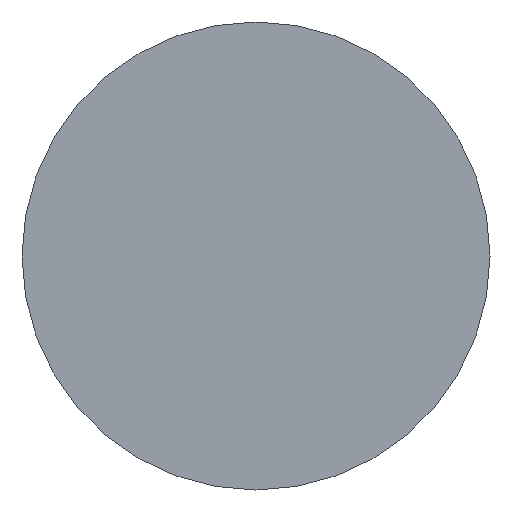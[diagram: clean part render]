
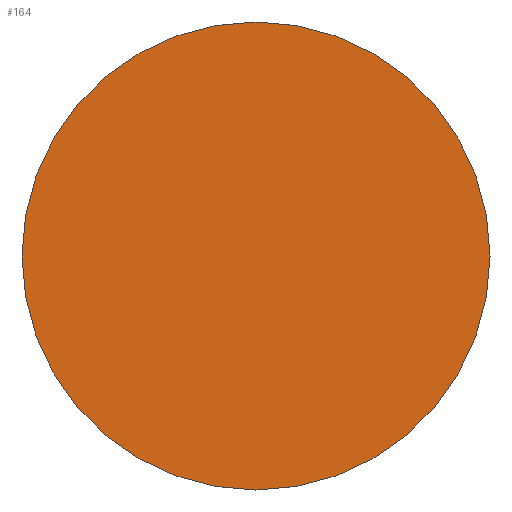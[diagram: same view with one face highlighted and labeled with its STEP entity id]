
A CAD part, left-side view. The second image highlights one B-rep face of the part: STEP entity #164.
In plain terms, the highlighted planar face has unit normal (-1, 0, 0).
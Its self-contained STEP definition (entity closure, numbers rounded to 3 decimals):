
#9 = ORIENTED_EDGE ( 'NONE', *, *, #260, .T. ) ;
#12 = AXIS2_PLACEMENT_3D ( 'NONE', #229, #142, #182 ) ;
#25 = DIRECTION ( 'NONE',  ( -1., 0., 0. ) ) ;
#27 = EDGE_CURVE ( 'NONE', #155, #203, #177, .T. ) ;
#31 = CARTESIAN_POINT ( 'NONE',  ( 0., 0., 0. ) ) ;
#51 = ORIENTED_EDGE ( 'NONE', *, *, #27, .T. ) ;
#78 = DIRECTION ( 'NONE',  ( -1., 0., 0. ) ) ;
#82 = CARTESIAN_POINT ( 'NONE',  ( 0., 0., -1.25 ) ) ;
#104 = PLANE ( 'NONE',  #12 ) ;
#123 = DIRECTION ( 'NONE',  ( 0., 0., 1. ) ) ;
#142 = DIRECTION ( 'NONE',  ( 1., 0., 0. ) ) ;
#155 = VERTEX_POINT ( 'NONE', #82 ) ;
#164 = ADVANCED_FACE ( 'NONE', ( #230 ), #104, .F. ) ;
#165 = CARTESIAN_POINT ( 'NONE',  ( 0., 0., 0. ) ) ;
#169 = DIRECTION ( 'NONE',  ( 0., 0., 1. ) ) ;
#177 = CIRCLE ( 'NONE', #241, 1.25 ) ;
#182 = DIRECTION ( 'NONE',  ( 0., 0., -1. ) ) ;
#187 = CARTESIAN_POINT ( 'NONE',  ( 0., 0., 1.25 ) ) ;
#203 = VERTEX_POINT ( 'NONE', #187 ) ;
#209 = AXIS2_PLACEMENT_3D ( 'NONE', #31, #25, #169 ) ;
#229 = CARTESIAN_POINT ( 'NONE',  ( 0., 0., 0. ) ) ;
#230 = FACE_OUTER_BOUND ( 'NONE', #277, .T. ) ;
#241 = AXIS2_PLACEMENT_3D ( 'NONE', #165, #78, #123 ) ;
#260 = EDGE_CURVE ( 'NONE', #203, #155, #271, .T. ) ;
#271 = CIRCLE ( 'NONE', #209, 1.25 ) ;
#277 = EDGE_LOOP ( 'NONE', ( #9, #51 ) ) ;
